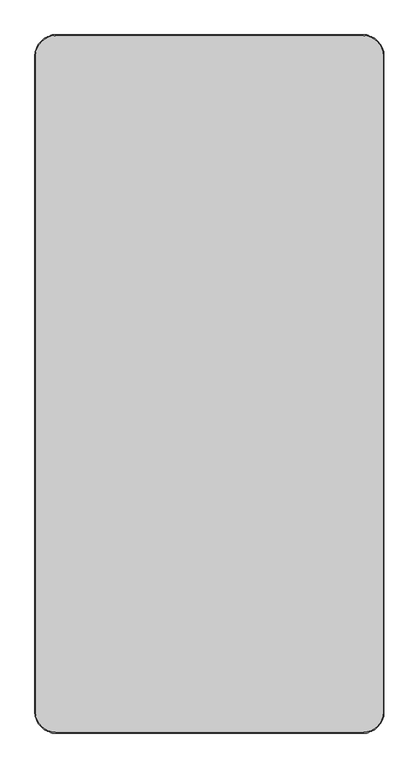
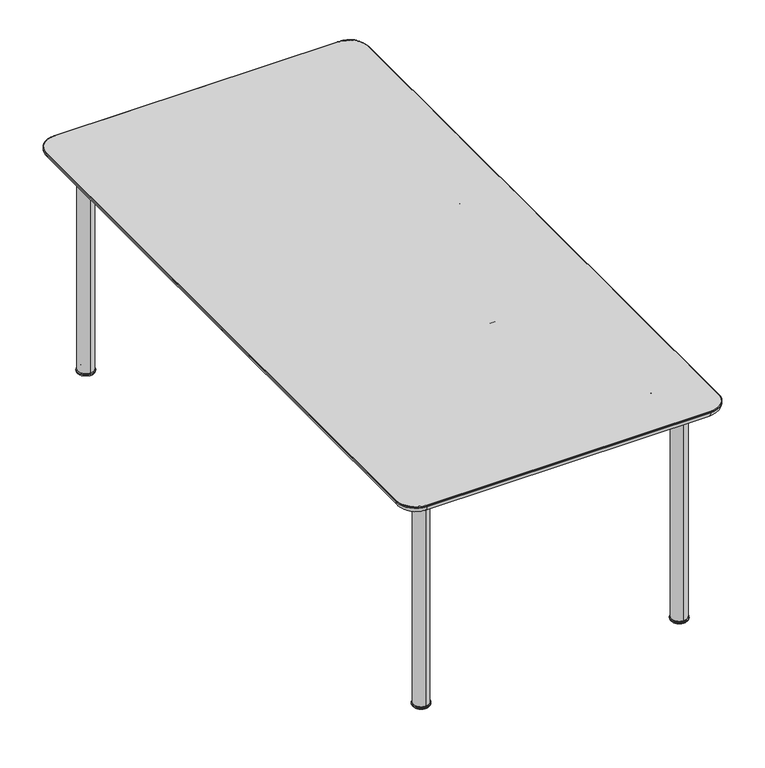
"""IFC4 building model written with IfcOpenShell, lengths in millimetres: furniture geometry, Fredericia - Plan Table - 6631 : Fredericia - Plan Table - 6631."""

import ifcopenshell
import ifcopenshell.guid

model = None  # the IFC model being written
_history = None  # IfcOwnerHistory: only IFC2X3 demands one
_inside = {}  # id of a spatial element -> (the spatial element, [elements in it])
_under = {}  # id of a project, library or spatial element -> (it, [spatial elements below it])
_declared = {}  # id of a project -> (the project, [libraries it declares])
_typed = {}  # id of a type object -> (the type object, [elements of that type])
_made_of = {}  # id of a material, layer set ... -> (it, [elements and type objects made of it])


def new_model(schema):
    """Start an empty IFC model of exactly this schema.

    Asked for "IFC4X3", IfcOpenShell would pick the latest addendum, in which some entities
    have other attributes; the version numbers below select the first issue.
    IFC2X3 requires an IfcOwnerHistory on every rooted entity: one is made here for all.
    """
    global model, _history
    if schema == "IFC4X3":
        model = ifcopenshell.file(schema_version=(4, 3, 0, 0))
    else:
        model = ifcopenshell.file(schema=schema)
    _inside.clear()
    _under.clear()
    _declared.clear()
    _typed.clear()
    _made_of.clear()
    _history = None
    if model.schema == "IFC2X3":
        org = make("IfcOrganization", Name="unknown")
        user = make(
            "IfcPersonAndOrganization",
            ThePerson=make("IfcPerson", FamilyName="unknown"),
            TheOrganization=org,
        )
        app = make(
            "IfcApplication",
            ApplicationDeveloper=org,
            Version="unknown",
            ApplicationFullName="unknown",
            ApplicationIdentifier="unknown",
        )
        _history = make(
            "IfcOwnerHistory",
            OwningUser=user,
            OwningApplication=app,
            ChangeAction="ADDED",
            CreationDate=0,
        )
    return model


def make(cls, **values):
    """One entity of the class cls with the attributes given. An attribute that is None is left unset."""
    return model.create_entity(
        cls, **{name: value for name, value in values.items() if value is not None}
    )


def rooted(cls, **values):
    """An entity with a GlobalId (a new one), such as an element, a storey or a relation."""
    return make(cls, GlobalId=ifcopenshell.guid.new(), OwnerHistory=_history, **values)


def si_unit(unit_type, name, prefix=None):
    """IfcSIUnit, for example si_unit("LENGTHUNIT", "METRE", prefix="MILLI")."""
    return make("IfcSIUnit", UnitType=unit_type, Prefix=prefix, Name=name)


def assignment(units):
    """IfcUnitAssignment: the units of a project."""
    return None if units is None else make("IfcUnitAssignment", Units=units)


def point(xyz):
    """IfcCartesianPoint."""
    return None if xyz is None else make("IfcCartesianPoint", Coordinates=xyz)


def direction(xyz):
    """IfcDirection."""
    return None if xyz is None else make("IfcDirection", DirectionRatios=xyz)


def frame(location, z_axis=None, x_axis=None):
    """IfcAxis2Placement3D, a coordinate frame: its origin and axes. An axis left out is left unset."""
    return make(
        "IfcAxis2Placement3D",
        Location=point(location),
        Axis=direction(z_axis),
        RefDirection=direction(x_axis),
    )


def frame_2d(location, x_axis=None):
    """IfcAxis2Placement2D, a coordinate frame in the plane: its origin and x axis."""
    return make(
        "IfcAxis2Placement2D", Location=point(location), RefDirection=direction(x_axis)
    )


def origin():
    """The frame at (0, 0, 0) with its axes left unset."""
    return frame((0.0, 0.0, 0.0))


def place(relative_to, where):
    """IfcLocalPlacement: puts the frame where relative to a parent placement (None: the world)."""
    return make(
        "IfcLocalPlacement", PlacementRelTo=relative_to, RelativePlacement=where
    )


def context(
    kind, dimensions, precision=None, world=None, true_north=None, identifier=None
):
    """IfcGeometricRepresentationContext, for example the 3D "Model" context."""
    return make(
        "IfcGeometricRepresentationContext",
        ContextIdentifier=identifier,
        ContextType=kind,
        CoordinateSpaceDimension=dimensions,
        Precision=precision,
        WorldCoordinateSystem=world,
        TrueNorth=true_north,
    )


def project(units=None, contexts=None):
    """IfcProject with its units and contexts."""
    return rooted(
        "IfcProject",
        Name="project",
        RepresentationContexts=contexts,
        UnitsInContext=assignment(units),
    )


def spatial(cls, under=None, at=None, **own):
    """A site, building, storey or space (cls), placed at a placement, below another one or the project."""
    s = rooted(cls, ObjectPlacement=at, **own)
    if under is not None:
        _under.setdefault(under.id(), (under, []))[1].append(s)
    return s


def polyline(points):
    """IfcPolyline through the points."""
    return make("IfcPolyline", Points=[point(p) for p in points])


def circle_curve(where, radius):
    """IfcCircle in the frame where."""
    return make("IfcCircle", Position=where, Radius=radius)


def ellipse_curve(where, semi_axis1, semi_axis2):
    """IfcEllipse in the frame where."""
    return make(
        "IfcEllipse", Position=where, SemiAxis1=semi_axis1, SemiAxis2=semi_axis2
    )


def trimmed(basis, trim1, trim2, sense, master):
    """IfcTrimmedCurve: the piece of a basis curve between two trims."""
    return make(
        "IfcTrimmedCurve",
        BasisCurve=basis,
        Trim1=trim1,
        Trim2=trim2,
        SenseAgreement=sense,
        MasterRepresentation=master,
    )


def segment(curve, same_sense, transition):
    """IfcCompositeCurveSegment."""
    return make(
        "IfcCompositeCurveSegment",
        Transition=transition,
        SameSense=same_sense,
        ParentCurve=curve,
    )


def composite_curve(segments, self_intersect=None):
    """IfcCompositeCurve: segments joined end to end."""
    return make("IfcCompositeCurve", Segments=segments, SelfIntersect=self_intersect)


def outline(outer, holes=None, kind="AREA"):
    """IfcArbitraryClosedProfileDef: a profile drawn as a closed curve; with holes, ...WithVoids."""
    if holes is None:
        return make("IfcArbitraryClosedProfileDef", ProfileType=kind, OuterCurve=outer)
    return make(
        "IfcArbitraryProfileDefWithVoids",
        ProfileType=kind,
        OuterCurve=outer,
        InnerCurves=holes,
    )


def extrude(swept, where, along, depth):
    """IfcExtrudedAreaSolid: the profile swept, set in the frame where, extruded along a direction by depth."""
    return make(
        "IfcExtrudedAreaSolid",
        SweptArea=swept,
        Position=where,
        ExtrudedDirection=direction(along),
        Depth=depth,
    )


def shape(context_of_items, identifier, shape_type, items):
    """IfcShapeRepresentation: the items that make up one representation, for example the "Body"."""
    return make(
        "IfcShapeRepresentation",
        ContextOfItems=context_of_items,
        RepresentationIdentifier=identifier,
        RepresentationType=shape_type,
        Items=items,
    )


def source(mapping_origin, context_of_items, identifier, shape_type, items):
    """IfcRepresentationMap: a shape defined once, which mapped items show again and again."""
    return make(
        "IfcRepresentationMap",
        MappingOrigin=mapping_origin,
        MappedRepresentation=shape(context_of_items, identifier, shape_type, items),
    )


def transform(
    local_origin,
    x_axis=None,
    y_axis=None,
    z_axis=None,
    scale=None,
    scale2=None,
    scale3=None,
    uniform=True,
):
    """IfcCartesianTransformationOperator3D, or its non-uniform kind. x_axis, y_axis, z_axis: its Axis1, 2, 3."""
    if uniform:
        return make(
            "IfcCartesianTransformationOperator3D",
            Axis1=direction(x_axis),
            Axis2=direction(y_axis),
            LocalOrigin=point(local_origin),
            Scale=scale,
            Axis3=direction(z_axis),
        )
    return make(
        "IfcCartesianTransformationOperator3DnonUniform",
        Axis1=direction(x_axis),
        Axis2=direction(y_axis),
        LocalOrigin=point(local_origin),
        Scale=scale,
        Axis3=direction(z_axis),
        Scale2=scale2,
        Scale3=scale3,
    )


def mapped(mapping_source, mapping_target):
    """IfcMappedItem: shows the shape of a source again, moved by a transform."""
    return make(
        "IfcMappedItem", MappingSource=mapping_source, MappingTarget=mapping_target
    )


def made_of(thing, what):
    """Note that an element or type object is made of a material, layer set ...; save() writes the relation."""
    if what is not None:
        _made_of.setdefault(what.id(), (what, []))[1].append(thing)
    return thing


def element(
    cls,
    number,
    at=None,
    inside=None,
    cuts=None,
    type_object=None,
    material=None,
    context=None,
    identifier="Body",
    shape_type=None,
    held_by="IfcProductDefinitionShape",
    body=None,
    shapes=None,
    **own,
):
    """One element of the class cls, such as IfcWall. Its Tag is "e" and its number.

    at: its placement. inside: the storey or other place that contains it. cuts: it is an
    opening in that element (IfcRelVoidsElement). A single representation is given by context,
    identifier, shape_type and body (its items); several are given by shapes. held_by: the class
    of the entity that holds the representations. save() writes the other relations.
    """
    e = rooted(cls, Tag="e%d" % number, ObjectPlacement=at, **own)
    if body is not None:
        shapes = [shape(context, identifier, shape_type, body)]
    if shapes is not None:
        e.Representation = make(held_by, Representations=shapes)
    if inside is not None:
        _inside.setdefault(inside.id(), (inside, []))[1].append(e)
    if cuts is not None:
        rooted(
            "IfcRelVoidsElement", RelatingBuildingElement=cuts, RelatedOpeningElement=e
        )
    if type_object is not None:
        _typed.setdefault(type_object.id(), (type_object, []))[1].append(e)
    return made_of(e, material)


def aggregate(whole, parts):
    """IfcRelAggregates: a whole, such as a stair, and the parts it consists of."""
    return rooted("IfcRelAggregates", RelatingObject=whole, RelatedObjects=parts)


def save(model, path):
    """Write the relations noted so far, then the file.

    IfcRelAggregates (storeys below a building ...), IfcRelContainedInSpatialStructure (elements
    in a storey), IfcRelDefinesByType, IfcRelAssociatesMaterial and IfcRelDeclares: one each for
    every whole, place, type object, material and project.
    """
    for whole, parts in _under.values():
        aggregate(whole, parts)
    for where, things in _inside.values():
        rooted(
            "IfcRelContainedInSpatialStructure",
            RelatedElements=things,
            RelatingStructure=where,
        )
    for kind, things in _typed.values():
        rooted("IfcRelDefinesByType", RelatedObjects=things, RelatingType=kind)
    for what, things in _made_of.values():
        rooted("IfcRelAssociatesMaterial", RelatedObjects=things, RelatingMaterial=what)
    for by, libraries in _declared.values():
        rooted("IfcRelDeclares", RelatingContext=by, RelatedDefinitions=libraries)
    model.write(path)


def plane_surface(at):
    """IfcPlane: the flat surface through the origin of the frame at, square to its z axis."""
    return make("IfcPlane", Position=at)


def cylinder_surface(at, radius):
    """IfcCylindricalSurface: all points at the distance radius from the z axis of the frame at."""
    return make("IfcCylindricalSurface", Position=at, Radius=radius)


def revolved_surface(curve, axis_point, axis_direction):
    """IfcSurfaceOfRevolution: the curve turned about the line through axis_point along axis_direction."""
    return make(
        "IfcSurfaceOfRevolution",
        SweptCurve=make("IfcArbitraryOpenProfileDef", ProfileType="CURVE", Curve=curve),
        AxisPosition=make("IfcAxis1Placement", Location=point(axis_point), Axis=direction(axis_direction)),
    )


def advanced_brep(points, edges, surfaces, faces):
    """IfcAdvancedBrep: a solid bounded by faces that lie on surfaces and meet in shared edges.

    An edge is (start, end): straight between two places in points (the first is 0);
    or (start, end, curve); or (start, end, curve, False) where it runs against its curve.
    A face is (place in surfaces, loops), or (place, loops, False) where it looks against
    its surface's normal. A loop lists edges by number (the first is 1), with a minus sign
    where the edge is run from its end to its start. The first loop is the outer one.
    """
    corners = [point(p) for p in points]
    vertices = [make("IfcVertexPoint", VertexGeometry=c) for c in corners]
    made = []
    for start, end, *more in edges:
        made.append(
            make(
                "IfcEdgeCurve",
                EdgeStart=vertices[start],
                EdgeEnd=vertices[end],
                EdgeGeometry=more[0] if more else make("IfcPolyline", Points=[corners[start], corners[end]]),
                SameSense=more[1] if len(more) > 1 else True,
            )
        )
    hull = []
    for where, loops, *sense in faces:
        bounds = []
        for j, loop in enumerate(loops):
            ring = [make("IfcOrientedEdge", EdgeElement=made[abs(k) - 1], Orientation=k > 0) for k in loop]
            bounds.append(
                make(
                    "IfcFaceOuterBound" if j == 0 else "IfcFaceBound",
                    Bound=make("IfcEdgeLoop", EdgeList=ring),
                    Orientation=True,
                )
            )
        hull.append(make("IfcAdvancedFace", Bounds=bounds, FaceSurface=surfaces[where], SameSense=sense[0] if sense else True))
    return make("IfcAdvancedBrep", Outer=make("IfcClosedShell", CfsFaces=hull))


def furniture_ae0dc062(model_context):
    return source(origin(), model_context, "Body", "SolidModel", [
        advanced_brep(
        [(-387.5, -887.5, 689.5199779), (-412.5, -887.5, 689.5199779), (-412.5, -887.5, 664.4807411), (-387.5, -887.5, 664.4807411), (-387.5, 0.0, 689.5199779), (-412.5, 0.0, 689.5199779), (-412.5, 887.5, 689.5199779), (-412.5, 887.5, 664.4807411), (-412.5, 0.0, 664.4807411), (-387.5, 0.0, 664.4807411), (-387.5, 887.5, 664.4807411), (-387.5, 887.5, 689.5199779)],
        [
            (0, 1, circle_curve(frame((-400.0, -887.5, 689.5199779), z_axis=(0.0, -1.0, 0.0), x_axis=(-1.0, 0.0, 0.0)), 12.5)),
            (1, 2),
            (2, 3, circle_curve(frame((-400.0, -887.5, 664.4807411), z_axis=(0.0, -1.0, 0.0), x_axis=(-1.0, 0.0, 0.0)), 12.5)),
            (3, 0),
            (0, 4),
            (4, 5, circle_curve(frame((-400.0, 0.0, 689.5199779), z_axis=(0.0, -1.0, 0.0), x_axis=(-1.0, 0.0, 0.0)), 12.5)),
            (5, 1),
            (5, 6),
            (6, 7),
            (7, 8),
            (8, 2),
            (8, 9, circle_curve(frame((-400.0, 0.0, 664.4807411), z_axis=(0.0, -1.0, 0.0), x_axis=(-1.0, 0.0, 0.0)), 12.5)),
            (9, 3),
            (9, 10),
            (10, 11),
            (11, 4),
            (10, 7, circle_curve(frame((-400.0, 887.5, 664.4807411), z_axis=(0.0, 1.0, 0.0), x_axis=(-1.0, 0.0, 0.0)), 12.5)),
            (6, 11, circle_curve(frame((-400.0, 887.5, 689.5199779), z_axis=(0.0, 1.0, 0.0), x_axis=(-1.0, 0.0, 0.0)), 12.5)),
        ],
        [
            plane_surface(frame((-412.5, -887.5, 689.5199779), z_axis=(0.0, -1.0, 0.0), x_axis=(0.0, 0.0, -1.0))),
            cylinder_surface(frame((-400.0, 0.0, 689.5199779), z_axis=(0.0, -1.0, 0.0), x_axis=(-1.0, 0.0, 0.0)), 12.5),
            plane_surface(frame((-412.5, -887.5, 689.5199779), z_axis=(-1.0, 0.0, 0.0), x_axis=(0.0, 1.0, 0.0))),
            cylinder_surface(frame((-400.0, 0.0, 664.4807411), z_axis=(0.0, -1.0, 0.0), x_axis=(-1.0, 0.0, 0.0)), 12.5),
            plane_surface(frame((-387.5, -887.5, 664.4807411), z_axis=(1.0, 0.0, 0.0), x_axis=(0.0, 1.0, 0.0))),
            plane_surface(frame((-387.5, 887.5, 664.506188), z_axis=(0.0, 1.0, 0.0), x_axis=(0.0, 0.0, -1.0))),
            cylinder_surface(frame((-400.0, 0.0, 689.5199779), z_axis=(0.0, 1.0, 0.0), x_axis=(-1.0, 0.0, 0.0)), 12.5),
            cylinder_surface(frame((-400.0, 0.0, 664.4807411), z_axis=(0.0, 1.0, 0.0), x_axis=(-1.0, 0.0, 0.0)), 12.5),
        ],
        [
            (0, [[1, 2, 3, 4]]),
            (1, [[-1, 5, 6, 7]]),
            (2, [[-2, -7, 8, 9, 10, 11]]),
            (3, [[-3, -11, 12, 13]]),
            (4, [[-4, -13, 14, 15, 16, -5]]),
            (5, [[-15, 17, -9, 18]]),
            (6, [[-18, -8, -6, -16]]),
            (7, [[-17, -14, -12, -10]]),
        ],
    ),
        advanced_brep(
        [(387.5, -887.5, 689.5199779), (387.5, -887.5, 664.4807411), (412.5, -887.5, 664.4807411), (412.5, -887.5, 689.5199779), (412.5, 0.0, 689.5199779), (387.5, 0.0, 689.5199779), (412.5, 0.0, 664.4807411), (412.5, 887.5, 664.4807411), (412.5, 887.5, 689.5199779), (387.5, 0.0, 664.4807411), (387.5, 887.5, 689.5199779), (387.5, 887.5, 664.4807411)],
        [
            (0, 1),
            (1, 2, circle_curve(frame((400.0, -887.5, 664.4807411), z_axis=(0.0, -1.0, 0.0), x_axis=(1.0, 0.0, 0.0)), 12.5)),
            (2, 3),
            (3, 0, circle_curve(frame((400.0, -887.5, 689.5199779), z_axis=(0.0, -1.0, 0.0), x_axis=(1.0, 0.0, 0.0)), 12.5)),
            (3, 4),
            (4, 5, circle_curve(frame((400.0, 0.0, 689.5199779), z_axis=(0.0, -1.0, 0.0), x_axis=(1.0, 0.0, 0.0)), 12.5)),
            (5, 0),
            (2, 6),
            (6, 7),
            (7, 8),
            (8, 4),
            (1, 9),
            (9, 6, circle_curve(frame((400.0, 0.0, 664.4807411), z_axis=(0.0, -1.0, 0.0), x_axis=(1.0, 0.0, 0.0)), 12.5)),
            (5, 10),
            (10, 11),
            (11, 9),
            (10, 8, circle_curve(frame((400.0, 887.5, 689.5199779), z_axis=(0.0, 1.0, 0.0), x_axis=(1.0, 0.0, 0.0)), 12.5)),
            (7, 11, circle_curve(frame((400.0, 887.5, 664.4807411), z_axis=(0.0, 1.0, 0.0), x_axis=(1.0, 0.0, 0.0)), 12.5)),
        ],
        [
            plane_surface(frame((387.5, -887.5, 664.506188), z_axis=(0.0, -1.0, 0.0), x_axis=(0.0, 0.0, -1.0))),
            cylinder_surface(frame((400.0, 0.0, 689.5199779), z_axis=(0.0, -1.0, 0.0), x_axis=(1.0, 0.0, 0.0)), 12.5),
            plane_surface(frame((412.5, -887.5, 664.4807411), z_axis=(1.0, 0.0, 0.0), x_axis=(0.0, 1.0, 0.0))),
            cylinder_surface(frame((400.0, 0.0, 664.4807411), z_axis=(0.0, -1.0, 0.0), x_axis=(1.0, 0.0, 0.0)), 12.5),
            plane_surface(frame((387.5, -887.5, 689.5199779), z_axis=(-1.0, 0.0, 0.0), x_axis=(0.0, 1.0, 0.0))),
            plane_surface(frame((412.5, 887.5, 689.5199779), z_axis=(0.0, 1.0, 0.0), x_axis=(0.0, 0.0, -1.0))),
            cylinder_surface(frame((400.0, 0.0, 689.5199779), z_axis=(0.0, 1.0, 0.0), x_axis=(1.0, 0.0, 0.0)), 12.5),
            cylinder_surface(frame((400.0, 0.0, 664.4807411), z_axis=(0.0, 1.0, 0.0), x_axis=(1.0, 0.0, 0.0)), 12.5),
        ],
        [
            (0, [[1, 2, 3, 4]]),
            (1, [[-4, 5, 6, 7]]),
            (2, [[-3, 8, 9, 10, 11, -5]]),
            (3, [[-2, 12, 13, -8]]),
            (4, [[-1, -7, 14, 15, 16, -12]]),
            (5, [[17, -10, 18, -15]]),
            (6, [[-17, -14, -6, -11]]),
            (7, [[-18, -9, -13, -16]]),
        ],
    ),
        extrude(outline(composite_curve([segment(trimmed(circle_curve(frame_2d((753.0, 686.5060861)), 3.0), [point((750.0, 686.5060861))], [point((753.0, 689.5060861))], False, "CARTESIAN"), True, "CONTINUOUS"), segment(polyline([(753.0, 689.5060861), (772.0, 689.5060861)]), True, "CONTINUOUS"), segment(trimmed(circle_curve(frame_2d((772.0, 686.5060861)), 3.0), [point((772.0, 689.5060861))], [point((775.0, 686.5060861))], False, "CARTESIAN"), True, "CONTINUOUS"), segment(polyline([(775.0, 686.5060861), (775.0, 667.5060861)]), True, "CONTINUOUS"), segment(trimmed(circle_curve(frame_2d((772.0, 667.5060861)), 3.0), [point((775.0, 667.5060861))], [point((772.0, 664.5060861))], False, "CARTESIAN"), True, "CONTINUOUS"), segment(polyline([(772.0, 664.5060861), (753.0, 664.5060861)]), True, "CONTINUOUS"), segment(trimmed(circle_curve(frame_2d((753.0, 667.5060861)), 3.0), [point((753.0, 664.5060861))], [point((750.0, 667.5060861))], False, "CARTESIAN"), True, "CONTINUOUS"), segment(polyline([(750.0, 667.5060861), (750.0, 686.5060861)]), True, "CONTINUOUS")], self_intersect=False)), frame((-387.5, 0.0, 0.0), z_axis=(1.0, 0.0, 0.0), x_axis=(0.0, 1.0, 0.0)), (0.0, 0.0, 1.0), 775.0),
        extrude(outline(composite_curve([segment(trimmed(circle_curve(frame_2d((253.0, 686.5060861)), 3.0), [point((250.0, 686.5060861))], [point((253.0, 689.5060861))], False, "CARTESIAN"), True, "CONTINUOUS"), segment(polyline([(253.0, 689.5060861), (272.0, 689.5060861)]), True, "CONTINUOUS"), segment(trimmed(circle_curve(frame_2d((272.0, 686.5060861)), 3.0), [point((272.0, 689.5060861))], [point((275.0, 686.5060861))], False, "CARTESIAN"), True, "CONTINUOUS"), segment(polyline([(275.0, 686.5060861), (275.0, 667.5060861)]), True, "CONTINUOUS"), segment(trimmed(circle_curve(frame_2d((272.0, 667.5060861)), 3.0), [point((275.0, 667.5060861))], [point((272.0, 664.5060861))], False, "CARTESIAN"), True, "CONTINUOUS"), segment(polyline([(272.0, 664.5060861), (253.0, 664.5060861)]), True, "CONTINUOUS"), segment(trimmed(circle_curve(frame_2d((253.0, 667.5060861)), 3.0), [point((253.0, 664.5060861))], [point((250.0, 667.5060861))], False, "CARTESIAN"), True, "CONTINUOUS"), segment(polyline([(250.0, 667.5060861), (250.0, 686.5060861)]), True, "CONTINUOUS")], self_intersect=False)), frame((-387.5, 0.0, 0.0), z_axis=(1.0, 0.0, 0.0), x_axis=(0.0, 1.0, 0.0)), (0.0, 0.0, 1.0), 775.0),
        extrude(outline(composite_curve([segment(trimmed(circle_curve(frame_2d((900.0, 689.5199779)), 12.5), [point((887.5, 689.5199779))], [point((912.5, 689.5199779))], False, "CARTESIAN"), True, "CONTINUOUS"), segment(polyline([(912.5, 689.5199779), (912.5, 664.4807411)]), True, "CONTINUOUS"), segment(trimmed(circle_curve(frame_2d((900.0, 664.4807411)), 12.5), [point((912.5, 664.4807411))], [point((887.5, 664.4807411))], False, "CARTESIAN"), True, "CONTINUOUS"), segment(polyline([(887.5, 664.4807411), (887.5, 689.5199779)]), True, "CONTINUOUS")], self_intersect=False)), frame((-387.5, 0.0, 0.0), z_axis=(1.0, 0.0, 0.0), x_axis=(0.0, 1.0, 0.0)), (0.0, 0.0, 1.0), 775.0),
        advanced_brep(
        [(-400.0, 899.9751431, 7.0064935), (-400.0, 876.0499492, 7.0064935), (-400.0, 923.9003371, 7.0064935), (-400.0, 923.4003371, 0.0), (-400.0, 876.5499492, 0.0), (-400.0, 899.9751431, 0.0), (-400.0, 926.4003371, 3.0), (-400.0, 873.5499492, 3.0), (-400.0, 926.4003371, 4.5064935), (-400.0, 873.5499492, 4.5064935)],
        [
            (0, 1),
            (1, 2, circle_curve(frame((-400.0, 899.9751431, 7.0064935), z_axis=(0.0, 0.0, 1.0), x_axis=(0.0, -1.0, 0.0)), 23.925194)),
            (2, 0),
            (2, 1, circle_curve(frame((-400.0, 899.9751431, 7.0064935), z_axis=(0.0, 0.0, 1.0), x_axis=(0.0, -1.0, 0.0)), 23.925194)),
            (3, 4, circle_curve(frame((-400.0, 899.9751431, 0.0), z_axis=(0.0, 0.0, -1.0), x_axis=(0.0, -1.0, 0.0)), 23.425194)),
            (4, 5),
            (5, 3),
            (4, 3, circle_curve(frame((-400.0, 899.9751431, 0.0), z_axis=(0.0, 0.0, -1.0), x_axis=(0.0, -1.0, 0.0)), 23.425194)),
            (6, 7, circle_curve(frame((-400.0, 899.9751431, 3.0), z_axis=(0.0, 0.0, -1.0), x_axis=(0.0, -1.0, 0.0)), 26.425194)),
            (7, 4, circle_curve(frame((-400.0, 876.5499492, 3.0), z_axis=(1.0, 0.0, 0.0), x_axis=(0.0, -1.0, 0.0)), 3.0)),
            (3, 6, circle_curve(frame((-400.0, 923.4003371, 3.0), z_axis=(1.0, 0.0, 0.0), x_axis=(0.0, 1.0, 0.0)), 3.0)),
            (7, 6, circle_curve(frame((-400.0, 899.9751431, 3.0), z_axis=(0.0, 0.0, -1.0), x_axis=(0.0, -1.0, 0.0)), 26.425194)),
            (8, 9, circle_curve(frame((-400.0, 899.9751431, 4.5064935), z_axis=(0.0, 0.0, -1.0), x_axis=(0.0, -1.0, 0.0)), 26.425194)),
            (9, 7),
            (6, 8),
            (9, 8, circle_curve(frame((-400.0, 899.9751431, 4.5064935), z_axis=(0.0, 0.0, -1.0), x_axis=(0.0, -1.0, 0.0)), 26.425194)),
            (1, 9, circle_curve(frame((-400.0, 876.0499492, 4.5064935), z_axis=(1.0, 0.0, 0.0), x_axis=(0.0, -1.0, 0.0)), 2.5)),
            (8, 2, circle_curve(frame((-400.0, 923.9003371, 4.5064935), z_axis=(1.0, 0.0, 0.0), x_axis=(0.0, 1.0, 0.0)), 2.5)),
        ],
        [
            plane_surface(frame((-400.0, 899.9751431, 7.0064935), z_axis=(0.0, 0.0, 1.0), x_axis=(0.0, -1.0, 0.0))),
            plane_surface(frame((-400.0, 899.9751431, 0.0), z_axis=(0.0, 0.0, -1.0), x_axis=(0.0, -1.0, 0.0))),
            revolved_surface(trimmed(ellipse_curve(frame((-400.0, 876.5499492, 3.0), z_axis=(-1.0, 0.0, 0.0), x_axis=(0.0, -1.0, 0.0)), 3.0, 3.0), [point((-400.0, 876.5499492, 0.0))], [point((-400.0, 873.5499492, 3.0))], True, "CARTESIAN"), (-400.0, 899.9751431, 7.0064935), (0.0, 0.0, 1.0)),
            cylinder_surface(frame((-400.0, 899.9751431, 7.0064935), z_axis=(0.0, 0.0, 1.0), x_axis=(0.0, -1.0, 0.0)), 26.425194),
            revolved_surface(trimmed(ellipse_curve(frame((-400.0, 876.0499492, 4.5064935), z_axis=(-1.0, 0.0, 0.0), x_axis=(0.0, -1.0, 0.0)), 2.5, 2.5), [point((-400.0, 873.5499492, 4.5064935))], [point((-400.0, 876.0499492, 7.0064935))], True, "CARTESIAN"), (-400.0, 899.9751431, 7.0064935), (0.0, 0.0, 1.0)),
        ],
        [
            (0, [[1, 2, 3]]),
            (0, [[-3, 4, -1]]),
            (1, [[5, 6, 7]]),
            (1, [[8, -7, -6]]),
            (2, [[9, 10, -5, 11]]),
            (2, [[12, -11, -8, -10]]),
            (3, [[13, 14, -9, 15]]),
            (3, [[16, -15, -12, -14]]),
            (4, [[-2, 17, -13, 18]]),
            (4, [[-4, -18, -16, -17]]),
        ],
    ),
        extrude(outline(composite_curve([segment(trimmed(circle_curve(frame_2d((-400.0034069, 899.9751431)), 24.0), [point((-400.0034069, 923.9751431))], [point((-400.0034069, 875.9751431))], False, "CARTESIAN"), True, "CONTINUOUS"), segment(trimmed(circle_curve(frame_2d((-400.0034069, 899.9751431)), 24.0), [point((-400.0034069, 875.9751431))], [point((-400.0034069, 923.9751431))], False, "CARTESIAN"), True, "CONTINUOUS")], self_intersect=False)), frame((0.0, 0.0, 7.0064935), z_axis=(0.0, 0.0, 1.0), x_axis=(1.0, 0.0, 0.0)), (0.0, 0.0, 1.0), 695.0),
        advanced_brep(
        [(400.0, 923.9003371, 7.0064935), (400.0, 876.0499492, 7.0064935), (400.0, 899.9751431, 7.0064935), (400.0, 899.9751431, 0.0), (400.0, 876.5499492, 0.0), (400.0, 923.4003371, 0.0), (400.0, 873.5499492, 3.0), (400.0, 926.4003371, 3.0), (400.0, 873.5499492, 4.5064935), (400.0, 926.4003371, 4.5064935)],
        [
            (0, 1, circle_curve(frame((400.0, 899.9751431, 7.0064935), z_axis=(0.0, 0.0, 1.0), x_axis=(0.0, -1.0, 0.0)), 23.925194)),
            (1, 2),
            (2, 0),
            (1, 0, circle_curve(frame((400.0, 899.9751431, 7.0064935), z_axis=(0.0, 0.0, 1.0), x_axis=(0.0, -1.0, 0.0)), 23.925194)),
            (3, 4),
            (4, 5, circle_curve(frame((400.0, 899.9751431, 0.0), z_axis=(0.0, 0.0, -1.0), x_axis=(0.0, -1.0, 0.0)), 23.425194)),
            (5, 3),
            (5, 4, circle_curve(frame((400.0, 899.9751431, 0.0), z_axis=(0.0, 0.0, -1.0), x_axis=(0.0, -1.0, 0.0)), 23.425194)),
            (4, 6, circle_curve(frame((400.0, 876.5499492, 3.0), z_axis=(-1.0, 0.0, 0.0), x_axis=(0.0, -1.0, 0.0)), 3.0)),
            (6, 7, circle_curve(frame((400.0, 899.9751431, 3.0), z_axis=(0.0, 0.0, -1.0), x_axis=(0.0, -1.0, 0.0)), 26.425194)),
            (7, 5, circle_curve(frame((400.0, 923.4003371, 3.0), z_axis=(-1.0, 0.0, 0.0), x_axis=(0.0, 1.0, 0.0)), 3.0)),
            (7, 6, circle_curve(frame((400.0, 899.9751431, 3.0), z_axis=(0.0, 0.0, -1.0), x_axis=(0.0, -1.0, 0.0)), 26.425194)),
            (6, 8),
            (8, 9, circle_curve(frame((400.0, 899.9751431, 4.5064935), z_axis=(0.0, 0.0, -1.0), x_axis=(0.0, -1.0, 0.0)), 26.425194)),
            (9, 7),
            (9, 8, circle_curve(frame((400.0, 899.9751431, 4.5064935), z_axis=(0.0, 0.0, -1.0), x_axis=(0.0, -1.0, 0.0)), 26.425194)),
            (8, 1, circle_curve(frame((400.0, 876.0499492, 4.5064935), z_axis=(-1.0, 0.0, 0.0), x_axis=(0.0, -1.0, 0.0)), 2.5)),
            (0, 9, circle_curve(frame((400.0, 923.9003371, 4.5064935), z_axis=(-1.0, 0.0, 0.0), x_axis=(0.0, 1.0, 0.0)), 2.5)),
        ],
        [
            plane_surface(frame((400.0, 899.9751431, 7.0064935), z_axis=(0.0, 0.0, 1.0), x_axis=(0.0, -1.0, 0.0))),
            plane_surface(frame((400.0, 899.9751431, 0.0), z_axis=(0.0, 0.0, -1.0), x_axis=(0.0, -1.0, 0.0))),
            revolved_surface(trimmed(ellipse_curve(frame((400.0, 876.5499492, 3.0), z_axis=(1.0, 0.0, 0.0), x_axis=(0.0, -1.0, 0.0)), 3.0, 3.0), [point((400.0, 873.5499492, 3.0))], [point((400.0, 876.5499492, 0.0))], True, "CARTESIAN"), (400.0, 899.9751431, 7.0064935), (0.0, 0.0, -1.0)),
            cylinder_surface(frame((400.0, 899.9751431, 7.0064935), z_axis=(0.0, 0.0, -1.0), x_axis=(0.0, -1.0, 0.0)), 26.425194),
            revolved_surface(trimmed(ellipse_curve(frame((400.0, 876.0499492, 4.5064935), z_axis=(1.0, 0.0, 0.0), x_axis=(0.0, -1.0, 0.0)), 2.5, 2.5), [point((400.0, 876.0499492, 7.0064935))], [point((400.0, 873.5499492, 4.5064935))], True, "CARTESIAN"), (400.0, 899.9751431, 7.0064935), (0.0, 0.0, -1.0)),
        ],
        [
            (0, [[1, 2, 3]]),
            (0, [[4, -3, -2]]),
            (1, [[5, 6, 7]]),
            (1, [[-7, 8, -5]]),
            (2, [[-6, 9, 10, 11]]),
            (2, [[-8, -11, 12, -9]]),
            (3, [[-10, 13, 14, 15]]),
            (3, [[-12, -15, 16, -13]]),
            (4, [[-14, 17, -1, 18]]),
            (4, [[-16, -18, -4, -17]]),
        ],
    ),
        extrude(outline(composite_curve([segment(trimmed(circle_curve(frame_2d((400.0034069, 899.9751431)), 24.0), [point((400.0034069, 923.9751431))], [point((400.0034069, 875.9751431))], False, "CARTESIAN"), True, "CONTINUOUS"), segment(trimmed(circle_curve(frame_2d((400.0034069, 899.9751431)), 24.0), [point((400.0034069, 875.9751431))], [point((400.0034069, 923.9751431))], False, "CARTESIAN"), True, "CONTINUOUS")], self_intersect=False)), frame((0.0, 0.0, 7.0064935), z_axis=(0.0, 0.0, 1.0), x_axis=(1.0, 0.0, 0.0)), (0.0, 0.0, 1.0), 695.0),
        advanced_brep(
        [(-498.0, -940.0, 725.0064935), (-440.0, -998.0, 725.0064935), (440.0, -998.0, 725.0064935), (498.0, -940.0, 725.0064935), (498.0, 0.0, 725.0064935), (498.0, 940.0, 725.0064935), (440.0, 998.0, 725.0064935), (-440.0, 998.0, 725.0064935), (-498.0, 940.0, 725.0064935), (-498.0, 0.0, 725.0064935), (-440.0, -992.0, 705.0064935), (-492.0, -940.0, 705.0064935), (-492.0, 0.0, 705.0064935), (-492.0, 940.0, 705.0064935), (-440.0, 992.0, 705.0064935), (440.0, 992.0, 705.0064935), (492.0, 940.0, 705.0064935), (492.0, 0.0, 705.0064935), (492.0, -940.0, 705.0064935), (440.0, -992.0, 705.0064935), (440.0, -1000.0, 723.0064935), (440.0, -1000.0, 721.0064935), (500.0, -940.0, 721.0064935), (500.0, -940.0, 723.0064946), (500.0, 0.0, 721.0064935), (500.0, 940.0, 721.0064935), (500.0, 940.0, 723.0064935), (500.0, 0.0, 723.0064935), (-500.0, 940.0, 723.0064936), (-500.0, 940.0, 721.0064935), (-500.0, 0.0, 721.0064935), (-500.0, -940.0, 721.0064935), (-500.0, -940.0, 723.0064947), (-500.0, 0.0, 723.0064935), (-440.0, -1000.0, 721.0064935), (-440.0, -1000.0, 723.0064946), (440.0, 1000.0, 723.0064935), (440.0, 1000.0, 721.0064935), (-440.0, 1000.0, 723.0064935), (-440.0, 1000.0, 721.0064935)],
        [
            (0, 1, circle_curve(frame((-440.0, -940.0, 725.0064935), z_axis=(0.0, 0.0, 1.0), x_axis=(-1.0, 0.0, 0.0)), 58.0)),
            (1, 2),
            (2, 3, circle_curve(frame((440.0, -940.0, 725.0064935), z_axis=(0.0, 0.0, 1.0), x_axis=(0.0, -1.0, 0.0)), 58.0)),
            (3, 4),
            (4, 5),
            (5, 6, circle_curve(frame((440.0, 940.0, 725.0064935), z_axis=(0.0, 0.0, 1.0), x_axis=(1.0, 0.0, 0.0)), 58.0)),
            (6, 7),
            (7, 8, circle_curve(frame((-440.0, 940.0, 725.0064935), z_axis=(0.0, 0.0, 1.0), x_axis=(0.0, 1.0, 0.0)), 58.0)),
            (8, 9),
            (9, 0),
            (10, 11, circle_curve(frame((-440.0, -940.0, 705.0064935), z_axis=(0.0, 0.0, -1.0), x_axis=(-1.0, 0.0, 0.0)), 52.0)),
            (11, 12),
            (12, 13),
            (13, 14, circle_curve(frame((-440.0, 940.0, 705.0064935), z_axis=(0.0, 0.0, -1.0), x_axis=(0.0, 1.0, 0.0)), 52.0)),
            (14, 15),
            (15, 16, circle_curve(frame((440.0, 940.0, 705.0064935), z_axis=(0.0, 0.0, -1.0), x_axis=(1.0, 0.0, 0.0)), 52.0)),
            (16, 17),
            (17, 18),
            (18, 19, circle_curve(frame((440.0, -940.0, 705.0064935), z_axis=(0.0, 0.0, -1.0), x_axis=(0.0, -1.0, 0.0)), 52.0)),
            (19, 10),
            (20, 21),
            (21, 22, circle_curve(frame((440.0, -940.0, 721.0064935), z_axis=(0.0, 0.0, 1.0), x_axis=(0.0, 1.0, 0.0)), 60.0)),
            (22, 23),
            (23, 20, circle_curve(frame((440.0, -940.0, 723.0064935), z_axis=(0.0, 0.0, -1.0), x_axis=(0.0, 1.0, 0.0)), 60.0)),
            (22, 24),
            (24, 25),
            (25, 26),
            (26, 27),
            (27, 23),
            (28, 29),
            (29, 30),
            (30, 31),
            (31, 32),
            (32, 33),
            (33, 28),
            (31, 34, circle_curve(frame((-440.0, -940.0, 721.0064935), z_axis=(0.0, 0.0, 1.0), x_axis=(0.0, 1.0, 0.0)), 60.0)),
            (34, 35),
            (35, 32, circle_curve(frame((-440.0, -940.0, 723.0064935), z_axis=(0.0, 0.0, -1.0), x_axis=(0.0, 1.0, 0.0)), 60.0)),
            (20, 35),
            (34, 21),
            (35, 1, circle_curve(frame((-440.0, -998.0, 723.0064935), z_axis=(-1.0, 0.0, 0.0), x_axis=(0.0, 1.0, 0.0)), 2.0)),
            (0, 32, circle_curve(frame((-498.0, -940.0, 723.0064935), z_axis=(0.0, -1.0, 0.0), x_axis=(1.0, 0.0, 0.0)), 2.0)),
            (10, 34, circle_curve(frame((-440.0, -980.0, 721.0064935), z_axis=(-1.0, 0.0, 0.0), x_axis=(0.0, 1.0, 0.0)), 20.0)),
            (31, 11, circle_curve(frame((-480.0, -940.0, 721.0064935), z_axis=(0.0, -1.0, 0.0), x_axis=(1.0, 0.0, 0.0)), 20.0)),
            (20, 2, circle_curve(frame((440.0, -998.0, 723.0064935), z_axis=(-1.0, 0.0, 0.0), x_axis=(0.0, 1.0, 0.0)), 2.0)),
            (19, 21, circle_curve(frame((440.0, -980.0, 721.0064935), z_axis=(-1.0, 0.0, 0.0), x_axis=(0.0, 1.0, 0.0)), 20.0)),
            (23, 3, circle_curve(frame((498.0, -940.0, 723.0064935), z_axis=(0.0, -1.0, 0.0), x_axis=(-1.0, 0.0, 0.0)), 2.0)),
            (18, 22, circle_curve(frame((480.0, -940.0, 721.0064935), z_axis=(0.0, -1.0, 0.0), x_axis=(-1.0, 0.0, 0.0)), 20.0)),
            (27, 4, circle_curve(frame((498.0, 0.0, 723.0064935), z_axis=(0.0, -1.0, 0.0), x_axis=(-1.0, 0.0, 0.0)), 2.0)),
            (17, 24, circle_curve(frame((480.0, 0.0, 721.0064935), z_axis=(0.0, -1.0, 0.0), x_axis=(-1.0, 0.0, 0.0)), 20.0)),
            (26, 5, circle_curve(frame((498.0, 940.0, 723.0064935), z_axis=(0.0, -1.0, 0.0), x_axis=(-1.0, 0.0, 0.0)), 2.0)),
            (16, 25, circle_curve(frame((480.0, 940.0, 721.0064935), z_axis=(0.0, -1.0, 0.0), x_axis=(-1.0, 0.0, 0.0)), 20.0)),
            (26, 36, circle_curve(frame((440.0, 940.0, 723.0064935), z_axis=(0.0, 0.0, 1.0), x_axis=(1.0, 0.0, 0.0)), 60.0)),
            (36, 6, circle_curve(frame((440.0, 998.0, 723.0064935), z_axis=(1.0, 0.0, 0.0), x_axis=(0.0, -1.0, 0.0)), 2.0)),
            (15, 37, circle_curve(frame((440.0, 980.0, 721.0064935), z_axis=(1.0, 0.0, 0.0), x_axis=(0.0, -1.0, 0.0)), 20.0)),
            (37, 25, circle_curve(frame((440.0, 940.0, 721.0064935), z_axis=(0.0, 0.0, -1.0), x_axis=(1.0, 0.0, 0.0)), 60.0)),
            (36, 38),
            (38, 7, circle_curve(frame((-440.0, 998.0, 723.0064935), z_axis=(1.0, 0.0, 0.0), x_axis=(0.0, -1.0, 0.0)), 2.0)),
            (14, 39, circle_curve(frame((-440.0, 980.0, 721.0064935), z_axis=(1.0, 0.0, 0.0), x_axis=(0.0, -1.0, 0.0)), 20.0)),
            (39, 37),
            (38, 28, circle_curve(frame((-440.0, 940.0, 723.0064935), z_axis=(0.0, 0.0, 1.0), x_axis=(0.0, 1.0, 0.0)), 60.0)),
            (28, 8, circle_curve(frame((-498.0, 940.0, 723.0064935), z_axis=(0.0, 1.0, 0.0), x_axis=(1.0, 0.0, 0.0)), 2.0)),
            (13, 29, circle_curve(frame((-480.0, 940.0, 721.0064935), z_axis=(0.0, 1.0, 0.0), x_axis=(1.0, 0.0, 0.0)), 20.0)),
            (29, 39, circle_curve(frame((-440.0, 940.0, 721.0064935), z_axis=(0.0, 0.0, -1.0), x_axis=(0.0, 1.0, 0.0)), 60.0)),
            (33, 9, circle_curve(frame((-498.0, 0.0, 723.0064935), z_axis=(0.0, 1.0, 0.0), x_axis=(1.0, 0.0, 0.0)), 2.0)),
            (12, 30, circle_curve(frame((-480.0, 0.0, 721.0064935), z_axis=(0.0, 1.0, 0.0), x_axis=(1.0, 0.0, 0.0)), 20.0)),
            (37, 36),
            (38, 39),
        ],
        [
            plane_surface(frame((440.0, -880.0, 725.0064935), z_axis=(0.0, 0.0, 1.0), x_axis=(-1.0, 0.0, 0.0))),
            plane_surface(frame((440.0, -880.0, 705.0064935), z_axis=(0.0, 0.0, -1.0), x_axis=(1.0, 0.0, 0.0))),
            cylinder_surface(frame((440.0, -940.0, 705.0064935), z_axis=(0.0, 0.0, 1.0), x_axis=(0.0, 1.0, 0.0)), 60.0),
            plane_surface(frame((500.0, -940.0, 725.0064935), z_axis=(1.0, 0.0, 0.0), x_axis=(0.0, 0.0, -1.0))),
            plane_surface(frame((-500.0, 0.0, 725.0064935), z_axis=(-1.0, 0.0, 0.0), x_axis=(0.0, 0.0, -1.0))),
            cylinder_surface(frame((-440.0, -940.0, 705.0064935), z_axis=(0.0, 0.0, 1.0), x_axis=(0.0, 1.0, 0.0)), 60.0),
            plane_surface(frame((-440.0, -1000.0, 725.0064935), z_axis=(0.0, -1.0, 0.0), x_axis=(0.0, 0.0, -1.0))),
            revolved_surface(trimmed(ellipse_curve(frame((-498.0, -940.0, 723.0064935), z_axis=(0.0, 1.0, 0.0), x_axis=(1.0, 0.0, 0.0)), 2.0, 2.0), [point((-500.0, -940.0, 723.0064935))], [point((-498.0, -940.0, 725.0064935))], True, "CARTESIAN"), (-440.0, -940.0, 0.0), (0.0, 0.0, 1.0)),
            revolved_surface(trimmed(ellipse_curve(frame((-480.0, -940.0, 721.0064935), z_axis=(0.0, 1.0, 0.0), x_axis=(1.0, 0.0, 0.0)), 20.0, 20.0), [point((-492.0, -940.0, 705.0064935))], [point((-500.0, -940.0, 721.0064935))], True, "CARTESIAN"), (-440.0, -940.0, 0.0), (0.0, 0.0, 1.0)),
            cylinder_surface(frame((-440.0, -998.0, 723.0064935), z_axis=(1.0, 0.0, 0.0), x_axis=(0.0, 1.0, 0.0)), 2.0),
            cylinder_surface(frame((-440.0, -980.0, 721.0064935), z_axis=(1.0, 0.0, 0.0), x_axis=(0.0, 1.0, 0.0)), 20.0),
            revolved_surface(trimmed(ellipse_curve(frame((440.0, -998.0, 723.0064935), z_axis=(-1.0, 0.0, 0.0), x_axis=(0.0, 1.0, 0.0)), 2.0, 2.0), [point((440.0, -1000.0, 723.0064935))], [point((440.0, -998.0, 725.0064935))], True, "CARTESIAN"), (440.0, -940.0, 0.0), (0.0, 0.0, 1.0)),
            revolved_surface(trimmed(ellipse_curve(frame((440.0, -980.0, 721.0064935), z_axis=(-1.0, 0.0, 0.0), x_axis=(0.0, 1.0, 0.0)), 20.0, 20.0), [point((440.0, -992.0, 705.0064935))], [point((440.0, -1000.0, 721.0064935))], True, "CARTESIAN"), (440.0, -940.0, 0.0), (0.0, 0.0, 1.0)),
            cylinder_surface(frame((498.0, -940.0, 723.0064935), z_axis=(0.0, 1.0, 0.0), x_axis=(-1.0, 0.0, 0.0)), 2.0),
            cylinder_surface(frame((480.0, -940.0, 721.0064935), z_axis=(0.0, 1.0, 0.0), x_axis=(-1.0, 0.0, 0.0)), 20.0),
            cylinder_surface(frame((498.0, 0.0, 723.0064935), z_axis=(0.0, 1.0, 0.0), x_axis=(-1.0, 0.0, 0.0)), 2.0),
            cylinder_surface(frame((480.0, 0.0, 721.0064935), z_axis=(0.0, 1.0, 0.0), x_axis=(-1.0, 0.0, 0.0)), 20.0),
            revolved_surface(trimmed(ellipse_curve(frame((498.0, 940.0, 723.0064935), z_axis=(0.0, -1.0, 0.0), x_axis=(-1.0, 0.0, 0.0)), 2.0, 2.0), [point((500.0, 940.0, 723.0064935))], [point((498.0, 940.0, 725.0064935))], True, "CARTESIAN"), (440.0, 940.0, 0.0), (0.0, 0.0, 1.0)),
            revolved_surface(trimmed(ellipse_curve(frame((480.0, 940.0, 721.0064935), z_axis=(0.0, -1.0, 0.0), x_axis=(-1.0, 0.0, 0.0)), 20.0, 20.0), [point((492.0, 940.0, 705.0064935))], [point((500.0, 940.0, 721.0064935))], True, "CARTESIAN"), (440.0, 940.0, 0.0), (0.0, 0.0, 1.0)),
            cylinder_surface(frame((440.0, 998.0, 723.0064935), z_axis=(-1.0, 0.0, 0.0), x_axis=(0.0, -1.0, 0.0)), 2.0),
            cylinder_surface(frame((440.0, 980.0, 721.0064935), z_axis=(-1.0, 0.0, 0.0), x_axis=(0.0, -1.0, 0.0)), 20.0),
            revolved_surface(trimmed(ellipse_curve(frame((-440.0, 998.0, 723.0064935), z_axis=(1.0, 0.0, 0.0), x_axis=(0.0, -1.0, 0.0)), 2.0, 2.0), [point((-440.0, 1000.0, 723.0064935))], [point((-440.0, 998.0, 725.0064935))], True, "CARTESIAN"), (-440.0, 940.0, 0.0), (0.0, 0.0, 1.0)),
            revolved_surface(trimmed(ellipse_curve(frame((-440.0, 980.0, 721.0064935), z_axis=(1.0, 0.0, 0.0), x_axis=(0.0, -1.0, 0.0)), 20.0, 20.0), [point((-440.0, 992.0, 705.0064935))], [point((-440.0, 1000.0, 721.0064935))], True, "CARTESIAN"), (-440.0, 940.0, 0.0), (0.0, 0.0, 1.0)),
            cylinder_surface(frame((-498.0, 940.0, 723.0064935), z_axis=(0.0, -1.0, 0.0), x_axis=(1.0, 0.0, 0.0)), 2.0),
            cylinder_surface(frame((-480.0, 940.0, 721.0064935), z_axis=(0.0, -1.0, 0.0), x_axis=(1.0, 0.0, 0.0)), 20.0),
            cylinder_surface(frame((-498.0, 0.0, 723.0064935), z_axis=(0.0, -1.0, 0.0), x_axis=(1.0, 0.0, 0.0)), 2.0),
            cylinder_surface(frame((-480.0, 0.0, 721.0064935), z_axis=(0.0, -1.0, 0.0), x_axis=(1.0, 0.0, 0.0)), 20.0),
            cylinder_surface(frame((440.0, 940.0, 705.0064935), z_axis=(0.0, 0.0, 1.0), x_axis=(0.0, -1.0, 0.0)), 60.0),
            cylinder_surface(frame((-440.0, 940.0, 705.0064935), z_axis=(0.0, 0.0, 1.0), x_axis=(0.0, -1.0, 0.0)), 60.0),
            plane_surface(frame((440.0, 1000.0, 725.0064935), z_axis=(0.0, 1.0, 0.0), x_axis=(0.0, 0.0, -1.0))),
        ],
        [
            (0, [[1, 2, 3, 4, 5, 6, 7, 8, 9, 10]]),
            (1, [[11, 12, 13, 14, 15, 16, 17, 18, 19, 20]]),
            (2, [[21, 22, 23, 24]]),
            (3, [[-23, 25, 26, 27, 28, 29]]),
            (4, [[30, 31, 32, 33, 34, 35]]),
            (5, [[-33, 36, 37, 38]]),
            (6, [[-21, 39, -37, 40]]),
            (7, [[41, -1, 42, -38]]),
            (8, [[43, -36, 44, -11]]),
            (9, [[-41, -39, 45, -2]]),
            (10, [[-43, -20, 46, -40]]),
            (11, [[-45, -24, 47, -3]]),
            (12, [[-46, -19, 48, -22]]),
            (13, [[-47, -29, 49, -4]]),
            (14, [[-48, -18, 50, -25]]),
            (15, [[-49, -28, 51, -5]]),
            (16, [[-50, -17, 52, -26]]),
            (17, [[-51, 53, 54, -6]]),
            (18, [[-52, -16, 55, 56]]),
            (19, [[-54, 57, 58, -7]]),
            (20, [[-55, -15, 59, 60]]),
            (21, [[-58, 61, 62, -8]]),
            (22, [[-59, -14, 63, 64]]),
            (23, [[-62, -35, 65, -9]]),
            (24, [[-63, -13, 66, -31]]),
            (25, [[-42, -10, -65, -34]]),
            (26, [[-44, -32, -66, -12]]),
            (27, [[-27, -56, 67, -53]]),
            (28, [[-30, -61, 68, -64]]),
            (29, [[-68, -57, -67, -60]]),
        ],
    ),
        extrude(outline(composite_curve([segment(polyline([(-750.0, 686.5060861), (-750.0, 667.5060861)]), True, "CONTINUOUS"), segment(trimmed(circle_curve(frame_2d((-753.0, 667.5060861)), 3.0), [point((-750.0, 667.5060861))], [point((-753.0, 664.5060861))], False, "CARTESIAN"), True, "CONTINUOUS"), segment(polyline([(-753.0, 664.5060861), (-772.0, 664.5060861)]), True, "CONTINUOUS"), segment(trimmed(circle_curve(frame_2d((-772.0, 667.5060861)), 3.0), [point((-772.0, 664.5060861))], [point((-775.0, 667.5060861))], False, "CARTESIAN"), True, "CONTINUOUS"), segment(polyline([(-775.0, 667.5060861), (-775.0, 686.5060861)]), True, "CONTINUOUS"), segment(trimmed(circle_curve(frame_2d((-772.0, 686.5060861)), 3.0), [point((-775.0, 686.5060861))], [point((-772.0, 689.5060861))], False, "CARTESIAN"), True, "CONTINUOUS"), segment(polyline([(-772.0, 689.5060861), (-753.0, 689.5060861)]), True, "CONTINUOUS"), segment(trimmed(circle_curve(frame_2d((-753.0, 686.5060861)), 3.0), [point((-753.0, 689.5060861))], [point((-750.0, 686.5060861))], False, "CARTESIAN"), True, "CONTINUOUS")], self_intersect=False)), frame((-387.5, 0.0, 0.0), z_axis=(1.0, 0.0, 0.0), x_axis=(0.0, 1.0, 0.0)), (0.0, 0.0, 1.0), 775.0),
        extrude(outline(composite_curve([segment(polyline([(-250.0, 686.5060861), (-250.0, 667.5060861)]), True, "CONTINUOUS"), segment(trimmed(circle_curve(frame_2d((-253.0, 667.5060861)), 3.0), [point((-250.0, 667.5060861))], [point((-253.0, 664.5060861))], False, "CARTESIAN"), True, "CONTINUOUS"), segment(polyline([(-253.0, 664.5060861), (-272.0, 664.5060861)]), True, "CONTINUOUS"), segment(trimmed(circle_curve(frame_2d((-272.0, 667.5060861)), 3.0), [point((-272.0, 664.5060861))], [point((-275.0, 667.5060861))], False, "CARTESIAN"), True, "CONTINUOUS"), segment(polyline([(-275.0, 667.5060861), (-275.0, 686.5060861)]), True, "CONTINUOUS"), segment(trimmed(circle_curve(frame_2d((-272.0, 686.5060861)), 3.0), [point((-275.0, 686.5060861))], [point((-272.0, 689.5060861))], False, "CARTESIAN"), True, "CONTINUOUS"), segment(polyline([(-272.0, 689.5060861), (-253.0, 689.5060861)]), True, "CONTINUOUS"), segment(trimmed(circle_curve(frame_2d((-253.0, 686.5060861)), 3.0), [point((-253.0, 689.5060861))], [point((-250.0, 686.5060861))], False, "CARTESIAN"), True, "CONTINUOUS")], self_intersect=False)), frame((-387.5, 0.0, 0.0), z_axis=(1.0, 0.0, 0.0), x_axis=(0.0, 1.0, 0.0)), (0.0, 0.0, 1.0), 775.0),
        extrude(outline(composite_curve([segment(polyline([(-887.5, 689.5199779), (-887.5, 664.4807411)]), True, "CONTINUOUS"), segment(trimmed(circle_curve(frame_2d((-900.0, 664.4807411)), 12.5), [point((-887.5, 664.4807411))], [point((-912.5, 664.4807411))], False, "CARTESIAN"), True, "CONTINUOUS"), segment(polyline([(-912.5, 664.4807411), (-912.5, 689.5199779)]), True, "CONTINUOUS"), segment(trimmed(circle_curve(frame_2d((-900.0, 689.5199779)), 12.5), [point((-912.5, 689.5199779))], [point((-887.5, 689.5199779))], False, "CARTESIAN"), True, "CONTINUOUS")], self_intersect=False)), frame((-387.5, 0.0, 0.0), z_axis=(1.0, 0.0, 0.0), x_axis=(0.0, 1.0, 0.0)), (0.0, 0.0, 1.0), 775.0),
        advanced_brep(
        [(-400.0, -923.9003371, 7.0064935), (-400.0, -876.0499492, 7.0064935), (-400.0, -899.9751431, 7.0064935), (-400.0, -899.9751431, 0.0), (-400.0, -876.5499492, 0.0), (-400.0, -923.4003371, 0.0), (-400.0, -873.5499492, 3.0), (-400.0, -926.4003371, 3.0), (-400.0, -873.5499492, 4.5064935), (-400.0, -926.4003371, 4.5064935)],
        [
            (0, 1, circle_curve(frame((-400.0, -899.9751431, 7.0064935), z_axis=(0.0, 0.0, 1.0), x_axis=(0.0, 1.0, 0.0)), 23.925194)),
            (1, 2),
            (2, 0),
            (1, 0, circle_curve(frame((-400.0, -899.9751431, 7.0064935), z_axis=(0.0, 0.0, 1.0), x_axis=(0.0, 1.0, 0.0)), 23.925194)),
            (3, 4),
            (4, 5, circle_curve(frame((-400.0, -899.9751431, 0.0), z_axis=(0.0, 0.0, -1.0), x_axis=(0.0, 1.0, 0.0)), 23.425194)),
            (5, 3),
            (5, 4, circle_curve(frame((-400.0, -899.9751431, 0.0), z_axis=(0.0, 0.0, -1.0), x_axis=(0.0, 1.0, 0.0)), 23.425194)),
            (4, 6, circle_curve(frame((-400.0, -876.5499492, 3.0), z_axis=(1.0, 0.0, 0.0), x_axis=(0.0, 1.0, 0.0)), 3.0)),
            (6, 7, circle_curve(frame((-400.0, -899.9751431, 3.0), z_axis=(0.0, 0.0, -1.0), x_axis=(0.0, 1.0, 0.0)), 26.425194)),
            (7, 5, circle_curve(frame((-400.0, -923.4003371, 3.0), z_axis=(1.0, 0.0, 0.0), x_axis=(0.0, -1.0, 0.0)), 3.0)),
            (7, 6, circle_curve(frame((-400.0, -899.9751431, 3.0), z_axis=(0.0, 0.0, -1.0), x_axis=(0.0, 1.0, 0.0)), 26.425194)),
            (6, 8),
            (8, 9, circle_curve(frame((-400.0, -899.9751431, 4.5064935), z_axis=(0.0, 0.0, -1.0), x_axis=(0.0, 1.0, 0.0)), 26.425194)),
            (9, 7),
            (9, 8, circle_curve(frame((-400.0, -899.9751431, 4.5064935), z_axis=(0.0, 0.0, -1.0), x_axis=(0.0, 1.0, 0.0)), 26.425194)),
            (8, 1, circle_curve(frame((-400.0, -876.0499492, 4.5064935), z_axis=(1.0, 0.0, 0.0), x_axis=(0.0, 1.0, 0.0)), 2.5)),
            (0, 9, circle_curve(frame((-400.0, -923.9003371, 4.5064935), z_axis=(1.0, 0.0, 0.0), x_axis=(0.0, -1.0, 0.0)), 2.5)),
        ],
        [
            plane_surface(frame((-400.0, -899.9751431, 7.0064935), z_axis=(0.0, 0.0, 1.0), x_axis=(0.0, 1.0, 0.0))),
            plane_surface(frame((-400.0, -899.9751431, 0.0), z_axis=(0.0, 0.0, -1.0), x_axis=(0.0, 1.0, 0.0))),
            revolved_surface(trimmed(ellipse_curve(frame((-400.0, -876.5499492, 3.0), z_axis=(-1.0, 0.0, 0.0), x_axis=(0.0, 1.0, 0.0)), 3.0, 3.0), [point((-400.0, -873.5499492, 3.0))], [point((-400.0, -876.5499492, 0.0))], True, "CARTESIAN"), (-400.0, -899.9751431, 7.0064935), (0.0, 0.0, -1.0)),
            cylinder_surface(frame((-400.0, -899.9751431, 7.0064935), z_axis=(0.0, 0.0, -1.0), x_axis=(0.0, 1.0, 0.0)), 26.425194),
            revolved_surface(trimmed(ellipse_curve(frame((-400.0, -876.0499492, 4.5064935), z_axis=(-1.0, 0.0, 0.0), x_axis=(0.0, 1.0, 0.0)), 2.5, 2.5), [point((-400.0, -876.0499492, 7.0064935))], [point((-400.0, -873.5499492, 4.5064935))], True, "CARTESIAN"), (-400.0, -899.9751431, 7.0064935), (0.0, 0.0, -1.0)),
        ],
        [
            (0, [[1, 2, 3]]),
            (0, [[4, -3, -2]]),
            (1, [[5, 6, 7]]),
            (1, [[-7, 8, -5]]),
            (2, [[-6, 9, 10, 11]]),
            (2, [[-8, -11, 12, -9]]),
            (3, [[-10, 13, 14, 15]]),
            (3, [[-12, -15, 16, -13]]),
            (4, [[-14, 17, -1, 18]]),
            (4, [[-16, -18, -4, -17]]),
        ],
    ),
        extrude(outline(composite_curve([segment(trimmed(circle_curve(frame_2d((-400.0034069, -899.9751431)), 24.0), [point((-400.0034069, -923.9751431))], [point((-400.0034069, -875.9751431))], False, "CARTESIAN"), True, "CONTINUOUS"), segment(trimmed(circle_curve(frame_2d((-400.0034069, -899.9751431)), 24.0), [point((-400.0034069, -875.9751431))], [point((-400.0034069, -923.9751431))], False, "CARTESIAN"), True, "CONTINUOUS")], self_intersect=False)), frame((0.0, 0.0, 7.0064935), z_axis=(0.0, 0.0, 1.0), x_axis=(1.0, 0.0, 0.0)), (0.0, 0.0, 1.0), 695.0),
        advanced_brep(
        [(400.0, -899.9751431, 7.0064935), (400.0, -876.0499492, 7.0064935), (400.0, -923.9003371, 7.0064935), (400.0, -923.4003371, 0.0), (400.0, -876.5499492, 0.0), (400.0, -899.9751431, 0.0), (400.0, -926.4003371, 3.0), (400.0, -873.5499492, 3.0), (400.0, -926.4003371, 4.5064935), (400.0, -873.5499492, 4.5064935)],
        [
            (0, 1),
            (1, 2, circle_curve(frame((400.0, -899.9751431, 7.0064935), z_axis=(0.0, 0.0, 1.0), x_axis=(0.0, 1.0, 0.0)), 23.925194)),
            (2, 0),
            (2, 1, circle_curve(frame((400.0, -899.9751431, 7.0064935), z_axis=(0.0, 0.0, 1.0), x_axis=(0.0, 1.0, 0.0)), 23.925194)),
            (3, 4, circle_curve(frame((400.0, -899.9751431, 0.0), z_axis=(0.0, 0.0, -1.0), x_axis=(0.0, 1.0, 0.0)), 23.425194)),
            (4, 5),
            (5, 3),
            (4, 3, circle_curve(frame((400.0, -899.9751431, 0.0), z_axis=(0.0, 0.0, -1.0), x_axis=(0.0, 1.0, 0.0)), 23.425194)),
            (6, 7, circle_curve(frame((400.0, -899.9751431, 3.0), z_axis=(0.0, 0.0, -1.0), x_axis=(0.0, 1.0, 0.0)), 26.425194)),
            (7, 4, circle_curve(frame((400.0, -876.5499492, 3.0), z_axis=(-1.0, 0.0, 0.0), x_axis=(0.0, 1.0, 0.0)), 3.0)),
            (3, 6, circle_curve(frame((400.0, -923.4003371, 3.0), z_axis=(-1.0, 0.0, 0.0), x_axis=(0.0, -1.0, 0.0)), 3.0)),
            (7, 6, circle_curve(frame((400.0, -899.9751431, 3.0), z_axis=(0.0, 0.0, -1.0), x_axis=(0.0, 1.0, 0.0)), 26.425194)),
            (8, 9, circle_curve(frame((400.0, -899.9751431, 4.5064935), z_axis=(0.0, 0.0, -1.0), x_axis=(0.0, 1.0, 0.0)), 26.425194)),
            (9, 7),
            (6, 8),
            (9, 8, circle_curve(frame((400.0, -899.9751431, 4.5064935), z_axis=(0.0, 0.0, -1.0), x_axis=(0.0, 1.0, 0.0)), 26.425194)),
            (1, 9, circle_curve(frame((400.0, -876.0499492, 4.5064935), z_axis=(-1.0, 0.0, 0.0), x_axis=(0.0, 1.0, 0.0)), 2.5)),
            (8, 2, circle_curve(frame((400.0, -923.9003371, 4.5064935), z_axis=(-1.0, 0.0, 0.0), x_axis=(0.0, -1.0, 0.0)), 2.5)),
        ],
        [
            plane_surface(frame((400.0, -899.9751431, 7.0064935), z_axis=(0.0, 0.0, 1.0), x_axis=(0.0, 1.0, 0.0))),
            plane_surface(frame((400.0, -899.9751431, 0.0), z_axis=(0.0, 0.0, -1.0), x_axis=(0.0, 1.0, 0.0))),
            revolved_surface(trimmed(ellipse_curve(frame((400.0, -876.5499492, 3.0), z_axis=(1.0, 0.0, 0.0), x_axis=(0.0, 1.0, 0.0)), 3.0, 3.0), [point((400.0, -876.5499492, 0.0))], [point((400.0, -873.5499492, 3.0))], True, "CARTESIAN"), (400.0, -899.9751431, 7.0064935), (0.0, 0.0, 1.0)),
            cylinder_surface(frame((400.0, -899.9751431, 7.0064935), z_axis=(0.0, 0.0, 1.0), x_axis=(0.0, 1.0, 0.0)), 26.425194),
            revolved_surface(trimmed(ellipse_curve(frame((400.0, -876.0499492, 4.5064935), z_axis=(1.0, 0.0, 0.0), x_axis=(0.0, 1.0, 0.0)), 2.5, 2.5), [point((400.0, -873.5499492, 4.5064935))], [point((400.0, -876.0499492, 7.0064935))], True, "CARTESIAN"), (400.0, -899.9751431, 7.0064935), (0.0, 0.0, 1.0)),
        ],
        [
            (0, [[1, 2, 3]]),
            (0, [[-3, 4, -1]]),
            (1, [[5, 6, 7]]),
            (1, [[8, -7, -6]]),
            (2, [[9, 10, -5, 11]]),
            (2, [[12, -11, -8, -10]]),
            (3, [[13, 14, -9, 15]]),
            (3, [[16, -15, -12, -14]]),
            (4, [[-2, 17, -13, 18]]),
            (4, [[-4, -18, -16, -17]]),
        ],
    ),
        extrude(outline(composite_curve([segment(trimmed(circle_curve(frame_2d((400.0034069, -899.9751431)), 24.0), [point((400.0034069, -923.9751431))], [point((400.0034069, -875.9751431))], False, "CARTESIAN"), True, "CONTINUOUS"), segment(trimmed(circle_curve(frame_2d((400.0034069, -899.9751431)), 24.0), [point((400.0034069, -875.9751431))], [point((400.0034069, -923.9751431))], False, "CARTESIAN"), True, "CONTINUOUS")], self_intersect=False)), frame((0.0, 0.0, 7.0064935), z_axis=(0.0, 0.0, 1.0), x_axis=(1.0, 0.0, 0.0)), (0.0, 0.0, 1.0), 695.0),
    ])


if __name__ == "__main__":
    model = new_model("IFC4")
    model_context = context("Model", 3, world=origin())
    ifc_project = project(units=[si_unit("LENGTHUNIT", "METRE", prefix="MILLI")], contexts=[model_context])
    site = spatial("IfcSite", under=ifc_project)
    building = spatial("IfcBuilding", under=site)
    placement = place(None, origin())
    furniture_shape = furniture_ae0dc062(model_context)
    element("IfcFurniture", 1, ObjectType="Fredericia - Plan Table - 6631 : Fredericia - Plan Table - 6631", at=placement, inside=building, context=model_context, shape_type="MappedRepresentation", body=[
        mapped(furniture_shape, transform((0.0, 0.0, 0.0), x_axis=(1.0, 0.0, 0.0), y_axis=(0.0, 1.0, 0.0), z_axis=(0.0, 0.0, 1.0))),
    ])
    save(model, "model.ifc")
